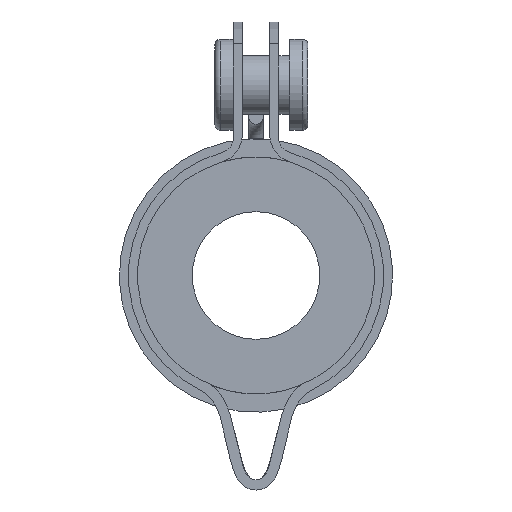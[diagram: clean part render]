
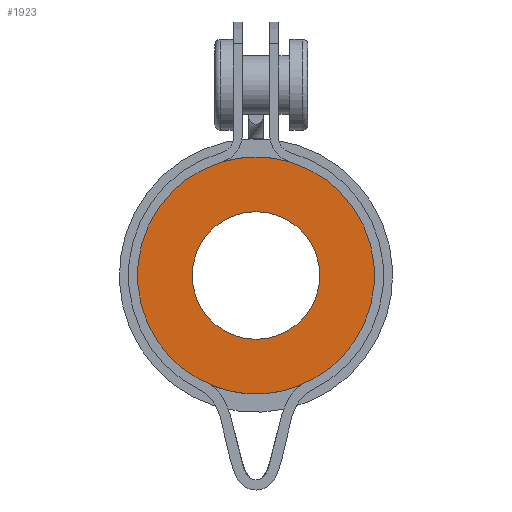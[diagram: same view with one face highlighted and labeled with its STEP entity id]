
A CAD part, front view. The second image highlights one B-rep face of the part: STEP entity #1923.
In plain terms, the highlighted planar face has unit normal (0, -1, 0).
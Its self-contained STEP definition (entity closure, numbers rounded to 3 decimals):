
#48=LINE($,#3221,#124);
#49=LINE($,#3228,#125);
#124=VECTOR($,#2512,0.245);
#125=VECTOR($,#2519,0.245);
#201=B_SPLINE_CURVE_WITH_KNOTS($,3,(#3209,#3210,#3211,#3212),
 .UNSPECIFIED.,.F.,.F.,(4,4),(0.,0.043),.UNSPECIFIED.);
#202=B_SPLINE_CURVE_WITH_KNOTS($,3,(#3216,#3217,#3218,#3219),
 .UNSPECIFIED.,.F.,.F.,(4,4),(0.123,0.165),
 .UNSPECIFIED.);
#301=FACE_BOUND($,#615,.T.);
#442=FACE_OUTER_BOUND($,#614,.T.);
#614=EDGE_LOOP($,(#1373,#1374,#1375,#1376,#1377,#1378,#1379,#1380));
#615=EDGE_LOOP($,(#1381));
#768=CIRCLE($,#2119,3.5);
#773=CIRCLE($,#2126,6.5);
#774=CIRCLE($,#2127,6.5);
#775=CIRCLE($,#2128,6.5);
#776=CIRCLE($,#2129,6.5);
#899=VERTEX_POINT($,#3181);
#908=VERTEX_POINT($,#3207);
#909=VERTEX_POINT($,#3208);
#910=VERTEX_POINT($,#3213);
#911=VERTEX_POINT($,#3215);
#912=VERTEX_POINT($,#3220);
#913=VERTEX_POINT($,#3222);
#914=VERTEX_POINT($,#3224);
#915=VERTEX_POINT($,#3226);
#1079=EDGE_CURVE($,#899,#899,#768,.T.);
#1088=EDGE_CURVE($,#908,#909,#201,.T.);
#1089=EDGE_CURVE($,#909,#910,#773,.T.);
#1090=EDGE_CURVE($,#910,#911,#202,.T.);
#1091=EDGE_CURVE($,#911,#912,#48,.T.);
#1092=EDGE_CURVE($,#912,#913,#774,.T.);
#1093=EDGE_CURVE($,#913,#914,#775,.T.);
#1094=EDGE_CURVE($,#914,#915,#776,.T.);
#1095=EDGE_CURVE($,#915,#908,#49,.T.);
#1373=ORIENTED_EDGE($,*,*,#1088,.T.);
#1374=ORIENTED_EDGE($,*,*,#1089,.T.);
#1375=ORIENTED_EDGE($,*,*,#1090,.T.);
#1376=ORIENTED_EDGE($,*,*,#1091,.T.);
#1377=ORIENTED_EDGE($,*,*,#1092,.T.);
#1378=ORIENTED_EDGE($,*,*,#1093,.T.);
#1379=ORIENTED_EDGE($,*,*,#1094,.T.);
#1380=ORIENTED_EDGE($,*,*,#1095,.T.);
#1381=ORIENTED_EDGE($,*,*,#1079,.T.);
#1713=PLANE($,#2125);
#1923=ADVANCED_FACE($,(#442,#301),#1713,.T.);
#2119=AXIS2_PLACEMENT_3D($,#3182,#2494,#2495);
#2125=AXIS2_PLACEMENT_3D($,#3206,#2508,#2509);
#2126=AXIS2_PLACEMENT_3D($,#3214,#2510,#2511);
#2127=AXIS2_PLACEMENT_3D($,#3223,#2513,#2514);
#2128=AXIS2_PLACEMENT_3D($,#3225,#2515,#2516);
#2129=AXIS2_PLACEMENT_3D($,#3227,#2517,#2518);
#2494=DIRECTION('center_axis',(0.,1.,0.));
#2495=DIRECTION('ref_axis',(1.,0.,0.));
#2508=DIRECTION('center_axis',(0.,-1.,0.));
#2509=DIRECTION('ref_axis',(0.,0.,-1.));
#2510=DIRECTION('center_axis',(0.,-1.,0.));
#2511=DIRECTION('ref_axis',(1.,0.,0.));
#2512=DIRECTION($,(0.976,0.,0.22));
#2513=DIRECTION('center_axis',(0.,-1.,0.));
#2514=DIRECTION('ref_axis',(1.,0.,0.));
#2515=DIRECTION('center_axis',(0.,-1.,0.));
#2516=DIRECTION('ref_axis',(1.,0.,0.));
#2517=DIRECTION('center_axis',(0.,-1.,0.));
#2518=DIRECTION('ref_axis',(1.,0.,0.));
#2519=DIRECTION($,(0.976,0.,-0.22));
#3181=CARTESIAN_POINT('',(-3.5,0.,0.));
#3182=CARTESIAN_POINT('Origin',(0.,0.,0.));
#3206=CARTESIAN_POINT('Origin',(0.,0.,0.));
#3207=CARTESIAN_POINT('',(-2.761,0.,-5.82));
#3208=CARTESIAN_POINT('',(-2.401,0.,-6.04));
#3209=CARTESIAN_POINT('Ctrl Pts',(-2.761,0.,
-5.82));
#3210=CARTESIAN_POINT('Ctrl Pts',(-2.632,0.,
-5.881));
#3211=CARTESIAN_POINT('Ctrl Pts',(-2.512,0.,
-5.955));
#3212=CARTESIAN_POINT('Ctrl Pts',(-2.401,0.,
-6.04));
#3213=CARTESIAN_POINT('',(2.401,0.,-6.04));
#3214=CARTESIAN_POINT('Origin',(0.,0.,0.));
#3215=CARTESIAN_POINT('',(2.761,0.,-5.82));
#3216=CARTESIAN_POINT('Ctrl Pts',(2.401,0.,-6.04));
#3217=CARTESIAN_POINT('Ctrl Pts',(2.511,0.,-5.956));
#3218=CARTESIAN_POINT('Ctrl Pts',(2.631,0.,-5.882));
#3219=CARTESIAN_POINT('Ctrl Pts',(2.761,0.,-5.82));
#3220=CARTESIAN_POINT('',(3.,0.,-5.766));
#3221=CARTESIAN_POINT($,(2.071,0.,-5.976));
#3222=CARTESIAN_POINT('',(1.886,0.,6.22));
#3223=CARTESIAN_POINT('Origin',(0.,0.,0.));
#3224=CARTESIAN_POINT('',(-1.886,0.,6.22));
#3225=CARTESIAN_POINT('Origin',(0.,0.,0.));
#3226=CARTESIAN_POINT('',(-3.,0.,-5.766));
#3227=CARTESIAN_POINT('Origin',(0.,0.,0.));
#3228=CARTESIAN_POINT($,(-2.071,0.,-5.976));
